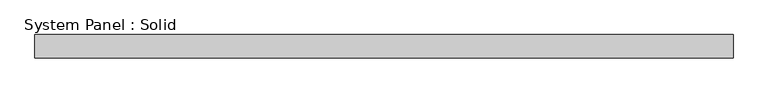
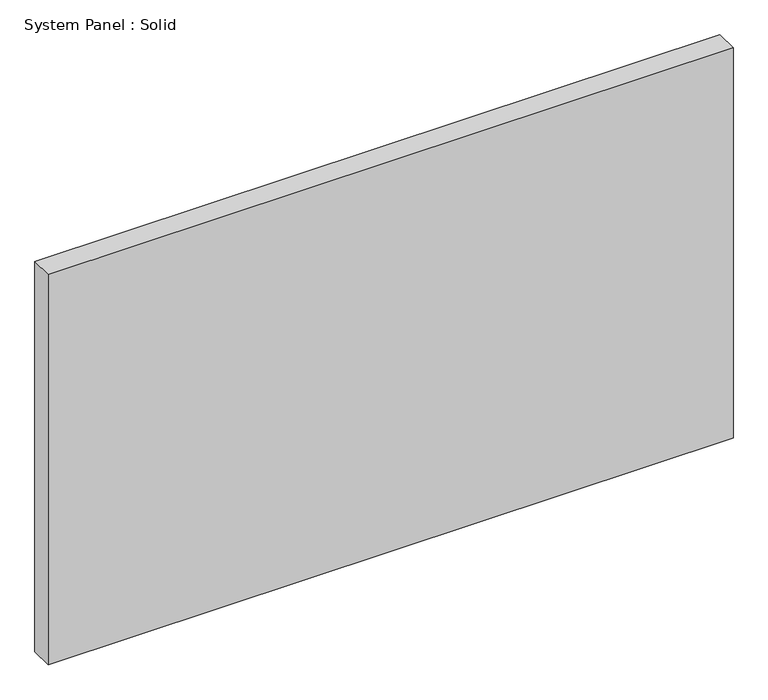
"""IFC4 building model written with IfcOpenShell, lengths in millimetres: plate geometry, System Panel : Solid."""

from ifc_helpers import new_model, si_unit, origin, origin_with_axes, place, context, project, spatial, polyline, outline, extrude, source, transform, mapped, element, save


def system_panel_solid_8d134956(model_context):
    return source(origin(), model_context, "Body", "SweptSolid", [
        extrude(outline(polyline([(958.85, -44.45), (-958.85, -44.45), (-958.85, 19.05), (958.85, 19.05), (958.85, -44.45)])), origin_with_axes(), (0.0, 0.0, 1.0), 1155.7),
    ])


if __name__ == "__main__":
    model = new_model("IFC4")
    model_context = context("Model", 3, world=origin())
    ifc_project = project(units=[si_unit("LENGTHUNIT", "METRE", prefix="MILLI")], contexts=[model_context])
    site = spatial("IfcSite", under=ifc_project)
    building = spatial("IfcBuilding", under=site)
    placement = place(None, origin())
    system_panel_solid_shape = system_panel_solid_8d134956(model_context)
    element("IfcPlate", 1, ObjectType="System Panel : Solid", at=placement, inside=building, context=model_context, shape_type="MappedRepresentation", body=[
        mapped(system_panel_solid_shape, transform((0.0, 0.0, 0.0), x_axis=(1.0, 0.0, 0.0), y_axis=(0.0, 1.0, 0.0), z_axis=(0.0, 0.0, 1.0))),
    ])
    save(model, "model.ifc")
